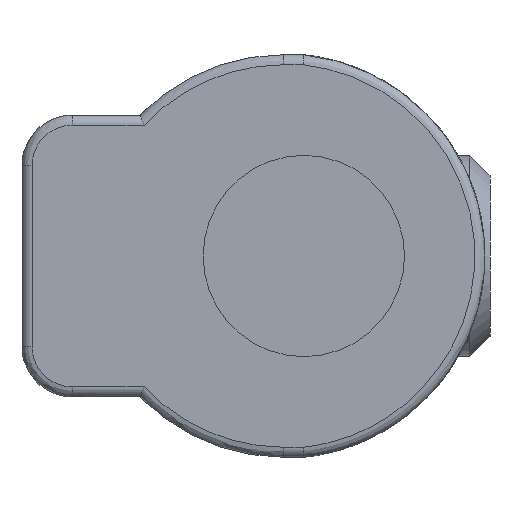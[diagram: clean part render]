
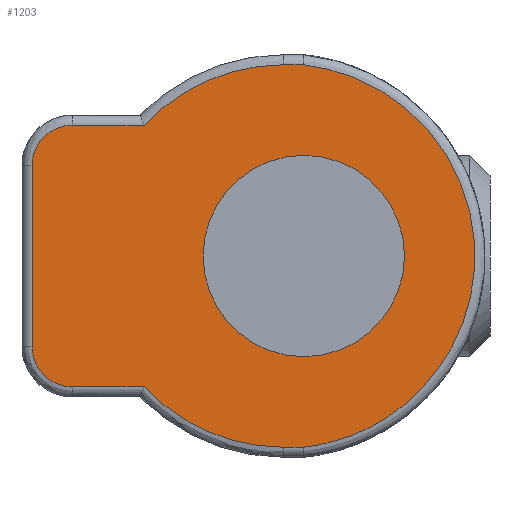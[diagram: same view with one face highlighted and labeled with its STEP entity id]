
A CAD part, left-side view. The second image highlights one B-rep face of the part: STEP entity #1203.
In plain terms, the highlighted planar face has unit normal (-1, 0, 0).
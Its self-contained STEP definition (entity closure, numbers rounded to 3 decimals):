
#15 = EDGE_CURVE ( 'NONE', #1090, #1679, #416, .T. ) ;
#18 = VERTEX_POINT ( 'NONE', #1857 ) ;
#96 = ORIENTED_EDGE ( 'NONE', *, *, #366, .F. ) ;
#99 = CARTESIAN_POINT ( 'NONE',  ( -6.8, 13.533, -1.725 ) ) ;
#114 = CARTESIAN_POINT ( 'NONE',  ( -6.8, 13., -1.725 ) ) ;
#116 = CARTESIAN_POINT ( 'NONE',  ( -6.8, 13., 0.175 ) ) ;
#141 = CARTESIAN_POINT ( 'NONE',  ( -6.8, 13., 2.075 ) ) ;
#149 = CARTESIAN_POINT ( 'NONE',  ( -6.8, 15.1, 1.475 ) ) ;
#238 = ORIENTED_EDGE ( 'NONE', *, *, #15, .F. ) ;
#279 = VERTEX_POINT ( 'NONE', #1239 ) ;
#288 = CARTESIAN_POINT ( 'NONE',  ( -6.8, 12.805, 2.075 ) ) ;
#296 =( BOUNDED_CURVE ( )  B_SPLINE_CURVE ( 3, ( #1309, #99, #725, #2078 ),
 .UNSPECIFIED., .F., .T. ) 
 B_SPLINE_CURVE_WITH_KNOTS ( ( 4, 4 ),
 ( 0., 1. ),
 .UNSPECIFIED. ) 
 CURVE ( )  GEOMETRIC_REPRESENTATION_ITEM ( )  RATIONAL_B_SPLINE_CURVE ( ( 1., 0.945, 0.945, 1. ) ) 
 REPRESENTATION_ITEM ( '' )  );
#311 = CARTESIAN_POINT ( 'NONE',  ( -6.8, 9.697, 1.738 ) ) ;
#366 = EDGE_CURVE ( 'NONE', #1679, #1161, #2556, .T. ) ;
#416 =( BOUNDED_CURVE ( )  B_SPLINE_CURVE ( 3, ( #489, #893, #2457, #1268 ),
 .UNSPECIFIED., .F., .F. ) 
 B_SPLINE_CURVE_WITH_KNOTS ( ( 4, 4 ),
 ( 0., 1. ),
 .UNSPECIFIED. ) 
 CURVE ( )  GEOMETRIC_REPRESENTATION_ITEM ( )  RATIONAL_B_SPLINE_CURVE ( ( 1., 0.805, 0.805, 1. ) ) 
 REPRESENTATION_ITEM ( '' )  );
#421 = ORIENTED_EDGE ( 'NONE', *, *, #983, .F. ) ;
#459 = DIRECTION ( 'NONE',  ( 0., -1., 0. ) ) ;
#462 = VECTOR ( 'NONE', #2218, 1000. ) ;
#489 = CARTESIAN_POINT ( 'NONE',  ( -6.8, 15.1, -1.125 ) ) ;
#515 = ORIENTED_EDGE ( 'NONE', *, *, #2487, .F. ) ;
#572 = EDGE_CURVE ( 'NONE', #1161, #279, #2431, .T. ) ;
#627 = ORIENTED_EDGE ( 'NONE', *, *, #2589, .F. ) ;
#659 = CARTESIAN_POINT ( 'NONE',  ( -6.8, 13., 1.475 ) ) ;
#689 = DIRECTION ( 'NONE',  ( 0., 0., -1. ) ) ;
#690 = EDGE_LOOP ( 'NONE', ( #421 ) ) ;
#725 = CARTESIAN_POINT ( 'NONE',  ( -6.8, 14.021, -1.513 ) ) ;
#745 = VERTEX_POINT ( 'NONE', #2518 ) ;
#746 = CARTESIAN_POINT ( 'NONE',  ( -6.8, 15.5, -0.725 ) ) ;
#786 = CARTESIAN_POINT ( 'NONE',  ( -6.8, 14.021, 1.863 ) ) ;
#806 = CARTESIAN_POINT ( 'NONE',  ( -6.8, 12.8, 0.175 ) ) ;
#830 = CARTESIAN_POINT ( 'NONE',  ( -6.8, 15.5, 0.175 ) ) ;
#832 = CIRCLE ( 'NONE', #1909, 1. ) ;
#854 = DIRECTION ( 'NONE',  ( -1., 0., 0. ) ) ;
#893 = CARTESIAN_POINT ( 'NONE',  ( -6.8, 15.334, -1.125 ) ) ;
#900 = CARTESIAN_POINT ( 'NONE',  ( -6.8, 12.805, -1.725 ) ) ;
#903 = EDGE_CURVE ( 'NONE', #2387, #745, #1852, .T. ) ;
#951 = CARTESIAN_POINT ( 'NONE',  ( -6.8, 14.386, 1.475 ) ) ;
#983 = EDGE_CURVE ( 'NONE', #2583, #2583, #832, .T. ) ;
#984 = CARTESIAN_POINT ( 'NONE',  ( -6.8, 13., 2.075 ) ) ;
#1038 = ORIENTED_EDGE ( 'NONE', *, *, #903, .F. ) ;
#1066 = CARTESIAN_POINT ( 'NONE',  ( -6.8, 15.1, -1.125 ) ) ;
#1087 = LINE ( 'NONE', #1517, #2055 ) ;
#1090 = VERTEX_POINT ( 'NONE', #1066 ) ;
#1110 = FACE_OUTER_BOUND ( 'NONE', #1351, .T. ) ;
#1133 = EDGE_CURVE ( 'NONE', #1315, #2453, #296, .T. ) ;
#1141 = FACE_BOUND ( 'NONE', #690, .T. ) ;
#1145 = VECTOR ( 'NONE', #2557, 1000. ) ;
#1161 = VERTEX_POINT ( 'NONE', #2514 ) ;
#1165 = ORIENTED_EDGE ( 'NONE', *, *, #2454, .F. ) ;
#1203 = ADVANCED_FACE ( 'NONE', ( #1110, #1141 ), #2313, .F. ) ;
#1239 = CARTESIAN_POINT ( 'NONE',  ( -6.8, 15.1, 1.475 ) ) ;
#1245 = VECTOR ( 'NONE', #1300, 1000. ) ;
#1268 = CARTESIAN_POINT ( 'NONE',  ( -6.8, 15.5, -0.725 ) ) ;
#1271 = DIRECTION ( 'NONE',  ( 0., 0., 1. ) ) ;
#1284 = CARTESIAN_POINT ( 'NONE',  ( -6.8, 14.386, -1.125 ) ) ;
#1300 = DIRECTION ( 'NONE',  ( 0., 1., 0. ) ) ;
#1309 = CARTESIAN_POINT ( 'NONE',  ( -6.8, 13., -1.725 ) ) ;
#1315 = VERTEX_POINT ( 'NONE', #114 ) ;
#1323 = EDGE_CURVE ( 'NONE', #18, #1315, #1087, .T. ) ;
#1351 = EDGE_LOOP ( 'NONE', ( #515, #2120, #1785, #1165, #627, #1038, #1433, #2484, #96, #238 ) ) ;
#1362 = CARTESIAN_POINT ( 'NONE',  ( -6.8, 15.5, 1.075 ) ) ;
#1376 = VECTOR ( 'NONE', #459, 1000. ) ;
#1433 = ORIENTED_EDGE ( 'NONE', *, *, #1904, .F. ) ;
#1517 = CARTESIAN_POINT ( 'NONE',  ( -6.8, 13., -1.725 ) ) ;
#1581 = CARTESIAN_POINT ( 'NONE',  ( -6.8, 12.805, 2.075 ) ) ;
#1679 = VERTEX_POINT ( 'NONE', #746 ) ;
#1685 = AXIS2_PLACEMENT_3D ( 'NONE', #116, #1878, #689 ) ;
#1701 = CARTESIAN_POINT ( 'NONE',  ( -6.8, 9.697, -1.388 ) ) ;
#1779 = CARTESIAN_POINT ( 'NONE',  ( -6.8, 13.533, 2.075 ) ) ;
#1785 = ORIENTED_EDGE ( 'NONE', *, *, #1323, .F. ) ;
#1852 =( BOUNDED_CURVE ( )  B_SPLINE_CURVE ( 3, ( #2391, #786, #1779, #984 ),
 .UNSPECIFIED., .F., .F. ) 
 B_SPLINE_CURVE_WITH_KNOTS ( ( 4, 4 ),
 ( 0., 1. ),
 .UNSPECIFIED. ) 
 CURVE ( )  GEOMETRIC_REPRESENTATION_ITEM ( )  RATIONAL_B_SPLINE_CURVE ( ( 1., 0.945, 0.945, 1. ) ) 
 REPRESENTATION_ITEM ( '' )  );
#1857 = CARTESIAN_POINT ( 'NONE',  ( -6.8, 12.805, -1.725 ) ) ;
#1878 = DIRECTION ( 'NONE',  ( 1., 0., 0. ) ) ;
#1904 = EDGE_CURVE ( 'NONE', #279, #2387, #2462, .T. ) ;
#1909 = AXIS2_PLACEMENT_3D ( 'NONE', #806, #854, #1271 ) ;
#1922 = CARTESIAN_POINT ( 'NONE',  ( -6.8, 12.8, 1.175 ) ) ;
#1987 = LINE ( 'NONE', #2499, #1245 ) ;
#2055 = VECTOR ( 'NONE', #2124, 1000. ) ;
#2078 = CARTESIAN_POINT ( 'NONE',  ( -6.8, 14.386, -1.125 ) ) ;
#2120 = ORIENTED_EDGE ( 'NONE', *, *, #1133, .F. ) ;
#2124 = DIRECTION ( 'NONE',  ( 0., 1., 0. ) ) ;
#2169 = LINE ( 'NONE', #141, #1145 ) ;
#2218 = DIRECTION ( 'NONE',  ( 0., 0., 1. ) ) ;
#2304 = VERTEX_POINT ( 'NONE', #1581 ) ;
#2313 = PLANE ( 'NONE',  #1685 ) ;
#2358 = CARTESIAN_POINT ( 'NONE',  ( -6.8, 15.5, 1.309 ) ) ;
#2369 = CARTESIAN_POINT ( 'NONE',  ( -6.8, 15.334, 1.475 ) ) ;
#2387 = VERTEX_POINT ( 'NONE', #951 ) ;
#2391 = CARTESIAN_POINT ( 'NONE',  ( -6.8, 14.386, 1.475 ) ) ;
#2431 =( BOUNDED_CURVE ( )  B_SPLINE_CURVE ( 3, ( #1362, #2358, #2369, #149 ),
 .UNSPECIFIED., .F., .T. ) 
 B_SPLINE_CURVE_WITH_KNOTS ( ( 4, 4 ),
 ( 0., 1. ),
 .UNSPECIFIED. ) 
 CURVE ( )  GEOMETRIC_REPRESENTATION_ITEM ( )  RATIONAL_B_SPLINE_CURVE ( ( 1., 0.805, 0.805, 1. ) ) 
 REPRESENTATION_ITEM ( '' )  );
#2453 = VERTEX_POINT ( 'NONE', #1284 ) ;
#2454 = EDGE_CURVE ( 'NONE', #2304, #18, #2515, .T. ) ;
#2457 = CARTESIAN_POINT ( 'NONE',  ( -6.8, 15.5, -0.959 ) ) ;
#2462 = LINE ( 'NONE', #659, #1376 ) ;
#2484 = ORIENTED_EDGE ( 'NONE', *, *, #572, .F. ) ;
#2487 = EDGE_CURVE ( 'NONE', #2453, #1090, #1987, .T. ) ;
#2499 = CARTESIAN_POINT ( 'NONE',  ( -6.8, 13., -1.125 ) ) ;
#2514 = CARTESIAN_POINT ( 'NONE',  ( -6.8, 15.5, 1.075 ) ) ;
#2515 =( BOUNDED_CURVE ( )  B_SPLINE_CURVE ( 3, ( #288, #311, #1701, #900 ),
 .UNSPECIFIED., .F., .T. ) 
 B_SPLINE_CURVE_WITH_KNOTS ( ( 4, 4 ),
 ( 0., 1. ),
 .UNSPECIFIED. ) 
 CURVE ( )  GEOMETRIC_REPRESENTATION_ITEM ( )  RATIONAL_B_SPLINE_CURVE ( ( 1., 0.405, 0.405, 1. ) ) 
 REPRESENTATION_ITEM ( '' )  );
#2518 = CARTESIAN_POINT ( 'NONE',  ( -6.8, 13., 2.075 ) ) ;
#2556 = LINE ( 'NONE', #830, #462 ) ;
#2557 = DIRECTION ( 'NONE',  ( 0., -1., 0. ) ) ;
#2583 = VERTEX_POINT ( 'NONE', #1922 ) ;
#2589 = EDGE_CURVE ( 'NONE', #745, #2304, #2169, .T. ) ;
